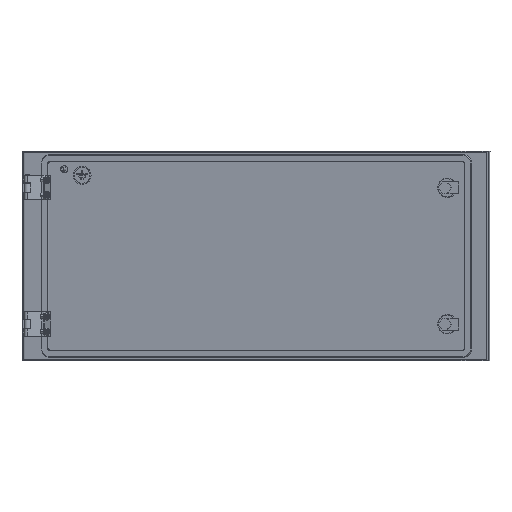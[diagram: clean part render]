
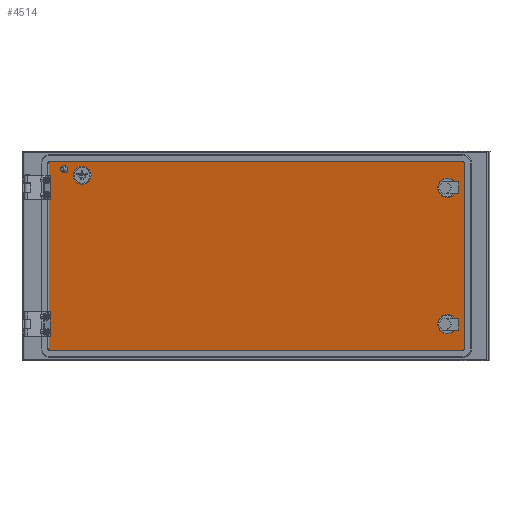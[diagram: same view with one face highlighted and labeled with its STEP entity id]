
A CAD part, left-side view. The second image highlights one B-rep face of the part: STEP entity #4514.
In plain terms, the highlighted planar face has unit normal (-0.966, 0.259, 0).
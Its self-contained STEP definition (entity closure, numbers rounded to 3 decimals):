
#100 = CARTESIAN_POINT ( 'NONE',  ( -131.283, -476.065, 791.5 ) ) ;
#311 = AXIS2_PLACEMENT_3D ( 'NONE', #19724, #320, #1886 ) ;
#320 = DIRECTION ( 'NONE',  ( -0.966, 0.259, 0. ) ) ;
#434 = DIRECTION ( 'NONE',  ( 0.259, 0.966, 0. ) ) ;
#559 = VERTEX_POINT ( 'NONE', #19845 ) ;
#840 = CARTESIAN_POINT ( 'NONE',  ( -179.378, -655.739, 178. ) ) ;
#848 = CARTESIAN_POINT ( 'NONE',  ( -168.26, -614.201, -87.5 ) ) ;
#974 = CARTESIAN_POINT ( 'NONE',  ( -172.397, -629.657, -87.5 ) ) ;
#1094 = EDGE_CURVE ( 'NONE', #559, #2646, #15986, .T. ) ;
#1351 = VERTEX_POINT ( 'NONE', #17218 ) ;
#1376 = CARTESIAN_POINT ( 'NONE',  ( -179.896, -657.671, 178. ) ) ;
#1489 = EDGE_CURVE ( 'NONE', #5662, #1351, #10608, .T. ) ;
#1886 = DIRECTION ( 'NONE',  ( 0.259, 0.966, 0. ) ) ;
#1978 = EDGE_CURVE ( 'NONE', #1351, #5662, #11288, .T. ) ;
#2015 = ORIENTED_EDGE ( 'NONE', *, *, #2247, .F. ) ;
#2080 = FACE_BOUND ( 'NONE', #8490, .T. ) ;
#2247 = EDGE_CURVE ( 'NONE', #3267, #17488, #14320, .T. ) ;
#2290 = DIRECTION ( 'NONE',  ( 0.966, -0.259, 0. ) ) ;
#2343 = CARTESIAN_POINT ( 'NONE',  ( 2.918, 25.285, 180. ) ) ;
#2646 = VERTEX_POINT ( 'NONE', #6196 ) ;
#2886 = CARTESIAN_POINT ( 'NONE',  ( -7.425, -13.355, 158. ) ) ;
#2934 = LINE ( 'NONE', #15844, #18516 ) ;
#3065 = ORIENTED_EDGE ( 'NONE', *, *, #10436, .F. ) ;
#3084 = VERTEX_POINT ( 'NONE', #20686 ) ;
#3173 = EDGE_CURVE ( 'NONE', #17488, #3267, #16377, .T. ) ;
#3267 = VERTEX_POINT ( 'NONE', #16869 ) ;
#3748 = FACE_BOUND ( 'NONE', #15714, .T. ) ;
#3920 = AXIS2_PLACEMENT_3D ( 'NONE', #12126, #2290, #19833 ) ;
#4195 = VERTEX_POINT ( 'NONE', #13404 ) ;
#4214 = DIRECTION ( 'NONE',  ( -0.966, 0.259, 0. ) ) ;
#4473 = ORIENTED_EDGE ( 'NONE', *, *, #13445, .T. ) ;
#4514 = ADVANCED_FACE ( 'NONE', ( #16449, #12866, #2080, #19704, #3748 ), #10143, .F. ) ;
#4521 = DIRECTION ( 'NONE',  ( 0.259, 0.966, 0. ) ) ;
#4602 = AXIS2_PLACEMENT_3D ( 'NONE', #5838, #5929, #12319 ) ;
#4624 = CARTESIAN_POINT ( 'NONE',  ( -11.304, -27.845, 158. ) ) ;
#4714 = DIRECTION ( 'NONE',  ( -0.966, 0.259, 0. ) ) ;
#4903 = DIRECTION ( 'NONE',  ( 0., 0., -1. ) ) ;
#5413 = CIRCLE ( 'NONE', #7413, 2.65 ) ;
#5523 = EDGE_CURVE ( 'NONE', #20390, #18350, #16943, .T. ) ;
#5657 = CIRCLE ( 'NONE', #17390, 16. ) ;
#5662 = VERTEX_POINT ( 'NONE', #2886 ) ;
#5695 = CARTESIAN_POINT ( 'NONE',  ( -176.534, -645.113, 137.5 ) ) ;
#5711 = CARTESIAN_POINT ( 'NONE',  ( 2.918, 25.285, -128. ) ) ;
#5838 = CARTESIAN_POINT ( 'NONE',  ( -172.397, -629.657, 137.5 ) ) ;
#5851 = DIRECTION ( 'NONE',  ( 0.966, -0.259, 0. ) ) ;
#5926 = ORIENTED_EDGE ( 'NONE', *, *, #7763, .F. ) ;
#5929 = DIRECTION ( 'NONE',  ( -0.966, 0.259, 0. ) ) ;
#6075 = DIRECTION ( 'NONE',  ( -0.966, 0.259, 0. ) ) ;
#6177 = DIRECTION ( 'NONE',  ( -0.259, -0.966, 0. ) ) ;
#6196 = CARTESIAN_POINT ( 'NONE',  ( -179.378, -655.739, -130. ) ) ;
#6219 = ORIENTED_EDGE ( 'NONE', *, *, #1094, .T. ) ;
#7131 = CARTESIAN_POINT ( 'NONE',  ( -3.546, 1.135, 168. ) ) ;
#7214 = DIRECTION ( 'NONE',  ( 0., 0., 1. ) ) ;
#7413 = AXIS2_PLACEMENT_3D ( 'NONE', #16271, #9961, #434 ) ;
#7457 = EDGE_CURVE ( 'NONE', #15782, #4195, #8919, .T. ) ;
#7763 = EDGE_CURVE ( 'NONE', #14001, #15782, #15348, .T. ) ;
#7797 = DIRECTION ( 'NONE',  ( -0.259, -0.966, 0. ) ) ;
#7802 = ORIENTED_EDGE ( 'NONE', *, *, #5523, .F. ) ;
#7807 = ORIENTED_EDGE ( 'NONE', *, *, #16671, .T. ) ;
#7833 = CARTESIAN_POINT ( 'NONE',  ( -179.896, -657.671, 178. ) ) ;
#8081 = CIRCLE ( 'NONE', #13424, 16. ) ;
#8175 = DIRECTION ( 'NONE',  ( 0.259, 0.966, 0. ) ) ;
#8385 = AXIS2_PLACEMENT_3D ( 'NONE', #7131, #13526, #13630 ) ;
#8490 = EDGE_LOOP ( 'NONE', ( #2015, #11795 ) ) ;
#8709 = CARTESIAN_POINT ( 'NONE',  ( -179.378, -655.739, 180. ) ) ;
#8919 = LINE ( 'NONE', #1376, #17716 ) ;
#8959 = CARTESIAN_POINT ( 'NONE',  ( 3.435, 27.217, 25. ) ) ;
#8977 = AXIS2_PLACEMENT_3D ( 'NONE', #840, #5851, #7214 ) ;
#9001 = VERTEX_POINT ( 'NONE', #848 ) ;
#9091 = CARTESIAN_POINT ( 'NONE',  ( -2.883, 3.612, 168.666 ) ) ;
#9536 = VERTEX_POINT ( 'NONE', #9091 ) ;
#9712 = AXIS2_PLACEMENT_3D ( 'NONE', #100, #19291, #4903 ) ;
#9767 = AXIS2_PLACEMENT_3D ( 'NONE', #5711, #20110, #12097 ) ;
#9894 = VECTOR ( 'NONE', #12296, 1000. ) ;
#9961 = DIRECTION ( 'NONE',  ( -0.966, 0.259, 0. ) ) ;
#10143 = PLANE ( 'NONE',  #9712 ) ;
#10436 = EDGE_CURVE ( 'NONE', #9001, #17150, #8081, .T. ) ;
#10588 = EDGE_CURVE ( 'NONE', #18350, #11513, #10933, .T. ) ;
#10603 = ORIENTED_EDGE ( 'NONE', *, *, #15289, .F. ) ;
#10608 = CIRCLE ( 'NONE', #14638, 15. ) ;
#10933 = CIRCLE ( 'NONE', #3920, 2. ) ;
#11100 = DIRECTION ( 'NONE',  ( 0.259, 0.966, 0. ) ) ;
#11213 = CARTESIAN_POINT ( 'NONE',  ( -179.378, -655.739, -128. ) ) ;
#11288 = CIRCLE ( 'NONE', #17686, 15. ) ;
#11513 = VERTEX_POINT ( 'NONE', #2343 ) ;
#11795 = ORIENTED_EDGE ( 'NONE', *, *, #3173, .F. ) ;
#11866 = EDGE_LOOP ( 'NONE', ( #15248, #10603 ) ) ;
#12097 = DIRECTION ( 'NONE',  ( 0.259, 0.966, 0. ) ) ;
#12126 = CARTESIAN_POINT ( 'NONE',  ( 2.918, 25.285, 178. ) ) ;
#12296 = DIRECTION ( 'NONE',  ( 0., 0., 1. ) ) ;
#12319 = DIRECTION ( 'NONE',  ( 0.259, 0.966, 0. ) ) ;
#12388 = CARTESIAN_POINT ( 'NONE',  ( 3.435, 27.217, 178. ) ) ;
#12464 = DIRECTION ( 'NONE',  ( 0., 0., -1. ) ) ;
#12473 = DIRECTION ( 'NONE',  ( -0.966, 0.259, 0. ) ) ;
#12551 = CARTESIAN_POINT ( 'NONE',  ( -11.304, -27.845, 158. ) ) ;
#12585 = ORIENTED_EDGE ( 'NONE', *, *, #7457, .F. ) ;
#12679 = EDGE_CURVE ( 'NONE', #17150, #9001, #5657, .T. ) ;
#12866 = FACE_BOUND ( 'NONE', #13549, .T. ) ;
#12911 = ORIENTED_EDGE ( 'NONE', *, *, #1978, .F. ) ;
#13404 = CARTESIAN_POINT ( 'NONE',  ( -179.896, -657.671, -128. ) ) ;
#13424 = AXIS2_PLACEMENT_3D ( 'NONE', #17941, #15947, #8175 ) ;
#13445 = EDGE_CURVE ( 'NONE', #20390, #559, #19457, .T. ) ;
#13526 = DIRECTION ( 'NONE',  ( -0.966, 0.259, 0. ) ) ;
#13549 = EDGE_LOOP ( 'NONE', ( #3065, #16876 ) ) ;
#13630 = DIRECTION ( 'NONE',  ( 0.259, 0.966, 0. ) ) ;
#14001 = VERTEX_POINT ( 'NONE', #8709 ) ;
#14007 = EDGE_CURVE ( 'NONE', #3084, #9536, #16434, .T. ) ;
#14320 = CIRCLE ( 'NONE', #4602, 16. ) ;
#14638 = AXIS2_PLACEMENT_3D ( 'NONE', #4624, #12473, #4521 ) ;
#15191 = EDGE_LOOP ( 'NONE', ( #7802, #4473, #6219, #7807, #12585, #5926, #18623, #18907 ) ) ;
#15248 = ORIENTED_EDGE ( 'NONE', *, *, #14007, .F. ) ;
#15289 = EDGE_CURVE ( 'NONE', #9536, #3084, #5413, .T. ) ;
#15348 = CIRCLE ( 'NONE', #8977, 2. ) ;
#15490 = EDGE_CURVE ( 'NONE', #11513, #14001, #2934, .T. ) ;
#15514 = AXIS2_PLACEMENT_3D ( 'NONE', #11213, #6075, #12464 ) ;
#15714 = EDGE_LOOP ( 'NONE', ( #19530, #12911 ) ) ;
#15782 = VERTEX_POINT ( 'NONE', #7833 ) ;
#15844 = CARTESIAN_POINT ( 'NONE',  ( 2.918, 25.285, 180. ) ) ;
#15947 = DIRECTION ( 'NONE',  ( -0.966, 0.259, 0. ) ) ;
#15986 = LINE ( 'NONE', #18927, #19865 ) ;
#16271 = CARTESIAN_POINT ( 'NONE',  ( -3.546, 1.135, 168. ) ) ;
#16377 = CIRCLE ( 'NONE', #311, 16. ) ;
#16434 = CIRCLE ( 'NONE', #8385, 2.65 ) ;
#16449 = FACE_OUTER_BOUND ( 'NONE', #15191, .T. ) ;
#16671 = EDGE_CURVE ( 'NONE', #2646, #4195, #19219, .T. ) ;
#16869 = CARTESIAN_POINT ( 'NONE',  ( -168.26, -614.201, 137.5 ) ) ;
#16876 = ORIENTED_EDGE ( 'NONE', *, *, #12679, .F. ) ;
#16943 = LINE ( 'NONE', #8959, #9894 ) ;
#17150 = VERTEX_POINT ( 'NONE', #20015 ) ;
#17218 = CARTESIAN_POINT ( 'NONE',  ( -15.182, -42.335, 158. ) ) ;
#17390 = AXIS2_PLACEMENT_3D ( 'NONE', #974, #4214, #20184 ) ;
#17414 = DIRECTION ( 'NONE',  ( 0., 0., -1. ) ) ;
#17488 = VERTEX_POINT ( 'NONE', #5695 ) ;
#17686 = AXIS2_PLACEMENT_3D ( 'NONE', #12551, #4714, #11100 ) ;
#17716 = VECTOR ( 'NONE', #17414, 1000. ) ;
#17941 = CARTESIAN_POINT ( 'NONE',  ( -172.397, -629.657, -87.5 ) ) ;
#18350 = VERTEX_POINT ( 'NONE', #12388 ) ;
#18516 = VECTOR ( 'NONE', #6177, 1000. ) ;
#18623 = ORIENTED_EDGE ( 'NONE', *, *, #15490, .F. ) ;
#18907 = ORIENTED_EDGE ( 'NONE', *, *, #10588, .F. ) ;
#18927 = CARTESIAN_POINT ( 'NONE',  ( 2.918, 25.285, -130. ) ) ;
#19033 = CARTESIAN_POINT ( 'NONE',  ( 3.435, 27.217, -128. ) ) ;
#19219 = CIRCLE ( 'NONE', #15514, 2. ) ;
#19291 = DIRECTION ( 'NONE',  ( 0.966, -0.259, 0. ) ) ;
#19457 = CIRCLE ( 'NONE', #9767, 2. ) ;
#19530 = ORIENTED_EDGE ( 'NONE', *, *, #1489, .F. ) ;
#19704 = FACE_BOUND ( 'NONE', #11866, .T. ) ;
#19724 = CARTESIAN_POINT ( 'NONE',  ( -172.397, -629.657, 137.5 ) ) ;
#19833 = DIRECTION ( 'NONE',  ( 0.259, 0.966, 0. ) ) ;
#19845 = CARTESIAN_POINT ( 'NONE',  ( 2.918, 25.285, -130. ) ) ;
#19865 = VECTOR ( 'NONE', #7797, 1000. ) ;
#20015 = CARTESIAN_POINT ( 'NONE',  ( -176.534, -645.113, -87.5 ) ) ;
#20110 = DIRECTION ( 'NONE',  ( -0.966, 0.259, 0. ) ) ;
#20184 = DIRECTION ( 'NONE',  ( 0.259, 0.966, 0. ) ) ;
#20390 = VERTEX_POINT ( 'NONE', #19033 ) ;
#20686 = CARTESIAN_POINT ( 'NONE',  ( -4.21, -1.343, 167.334 ) ) ;
